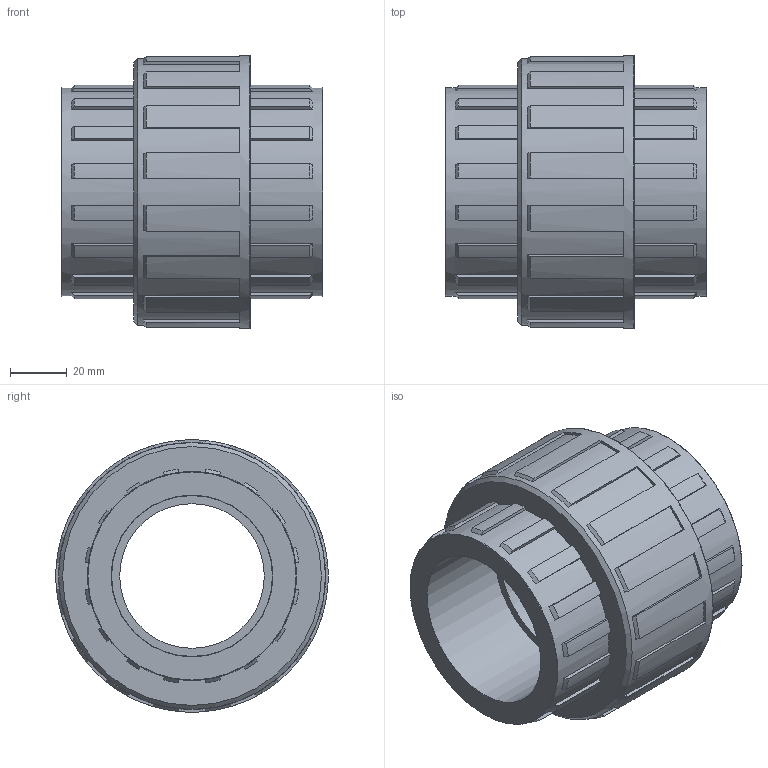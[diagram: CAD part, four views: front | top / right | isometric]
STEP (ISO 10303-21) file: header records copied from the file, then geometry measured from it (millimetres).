
FILE_DESCRIPTION(/* description */ ('PLASSON THR.UNION+O RING PVC 2"'),/* implementation_level */ '2;1');
FILE_NAME(/* name */ 'C:\Dropbox\KIMPROJECTS-Inventor\99-16-3568-Processing\PVC Catalog 2017\050801\050801020.ipt.stp',/* time_stamp */ '2017-12-07T15:58:08+02:00',/* author */ ('KIM'),/* organization */ (''),/* preprocessor_version */ 'ST-DEVELOPER v15.6',/* originating_system */ 'Autodesk Inventor 2015',/* authorisation */ '');
FILE_SCHEMA (('AUTOMOTIVE_DESIGN { 1 0 10303 214 3 1 1 }'));
Length unit declared in the file: millimetre
Products named in the file (1): 050801020
Bounding box: 92 x 96 x 96 mm (x, y, z)
Volume: 291330 mm3; surface area: 52559.4 mm2
Topology: 1 solids, 1 shells, 211 faces, 609 edges, 404 vertices
Faces by surface type: plane 118, cone 49, cylinder 39, torus 5
Full cylindrical faces by diameter (mm): 50.99 x1, 56.656 x2, 73.641 x2, 94.08 x1, 96 x1
Entity records: 6910 total; most frequent: DIRECTION 1224, CARTESIAN_POINT 1204, ORIENTED_EDGE 1184, EDGE_CURVE 592, AXIS2_PLACEMENT_3D 420, VERTEX_POINT 400, LINE 384, VECTOR 384
